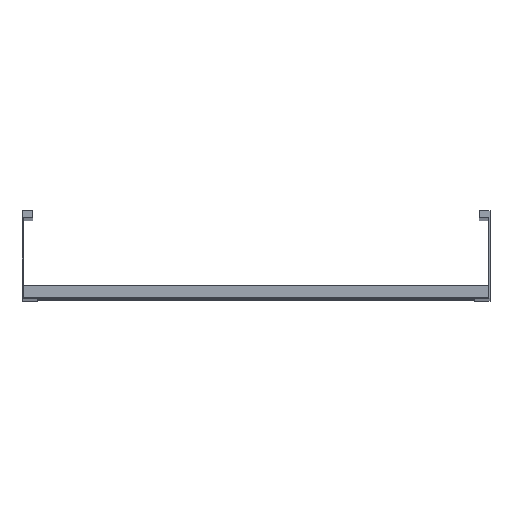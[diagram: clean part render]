
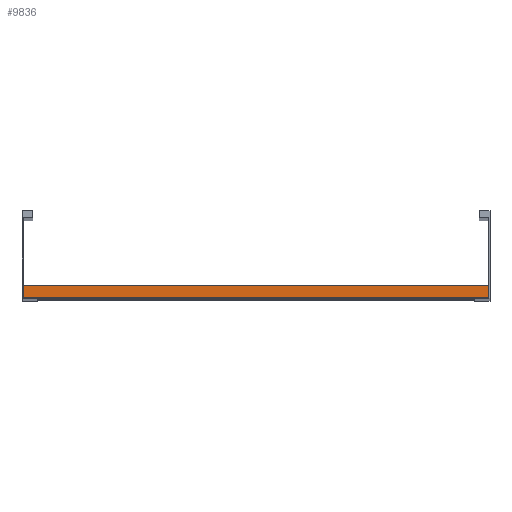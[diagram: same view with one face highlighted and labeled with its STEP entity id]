
A CAD part, top view. The second image highlights one B-rep face of the part: STEP entity #9836.
In plain terms, the highlighted planar face has unit normal (0, 0, 1).
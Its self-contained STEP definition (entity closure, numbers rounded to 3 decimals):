
#252 = CARTESIAN_POINT ( 'NONE',  ( 398., 0., 20.25 ) ) ;
#388 = CARTESIAN_POINT ( 'NONE',  ( 398., 20., 20.25 ) ) ;
#827 = VERTEX_POINT ( 'NONE', #4361 ) ;
#994 = VECTOR ( 'NONE', #1344, 1000. ) ;
#1344 = DIRECTION ( 'NONE',  ( 0., -1., 0. ) ) ;
#1865 = DIRECTION ( 'NONE',  ( -1., 0., 0. ) ) ;
#2303 = DIRECTION ( 'NONE',  ( 0., 0., -1. ) ) ;
#2851 = EDGE_CURVE ( 'NONE', #4086, #827, #9326, .T. ) ;
#3006 = LINE ( 'NONE', #9995, #9721 ) ;
#3504 = CARTESIAN_POINT ( 'NONE',  ( 398., 0., 20.25 ) ) ;
#3692 = LINE ( 'NONE', #6189, #10097 ) ;
#4086 = VERTEX_POINT ( 'NONE', #8723 ) ;
#4361 = CARTESIAN_POINT ( 'NONE',  ( -398., 0., 20.25 ) ) ;
#4966 = VERTEX_POINT ( 'NONE', #252 ) ;
#5033 = FACE_OUTER_BOUND ( 'NONE', #9501, .T. ) ;
#5355 = VERTEX_POINT ( 'NONE', #388 ) ;
#5361 = LINE ( 'NONE', #3504, #10273 ) ;
#6189 = CARTESIAN_POINT ( 'NONE',  ( 398., 20., 20.25 ) ) ;
#6844 = PLANE ( 'NONE',  #10262 ) ;
#7509 = CARTESIAN_POINT ( 'NONE',  ( -398., 20., 20.25 ) ) ;
#7606 = ORIENTED_EDGE ( 'NONE', *, *, #8698, .F. ) ;
#8644 = CARTESIAN_POINT ( 'NONE',  ( 398., 20., 20.25 ) ) ;
#8652 = ORIENTED_EDGE ( 'NONE', *, *, #9179, .F. ) ;
#8698 = EDGE_CURVE ( 'NONE', #5355, #4966, #3692, .T. ) ;
#8723 = CARTESIAN_POINT ( 'NONE',  ( -398., 20., 20.25 ) ) ;
#9013 = DIRECTION ( 'NONE',  ( -1., 0., 0. ) ) ;
#9179 = EDGE_CURVE ( 'NONE', #4966, #827, #5361, .T. ) ;
#9290 = DIRECTION ( 'NONE',  ( 0., 1., 0. ) ) ;
#9326 = LINE ( 'NONE', #7509, #994 ) ;
#9425 = ORIENTED_EDGE ( 'NONE', *, *, #2851, .T. ) ;
#9501 = EDGE_LOOP ( 'NONE', ( #9425, #8652, #7606, #10176 ) ) ;
#9685 = EDGE_CURVE ( 'NONE', #5355, #4086, #3006, .T. ) ;
#9721 = VECTOR ( 'NONE', #9013, 1000. ) ;
#9836 = ADVANCED_FACE ( 'NONE', ( #5033 ), #6844, .F. ) ;
#9852 = DIRECTION ( 'NONE',  ( 0., -1., 0. ) ) ;
#9995 = CARTESIAN_POINT ( 'NONE',  ( 398., 20., 20.25 ) ) ;
#10097 = VECTOR ( 'NONE', #9852, 1000. ) ;
#10176 = ORIENTED_EDGE ( 'NONE', *, *, #9685, .T. ) ;
#10262 = AXIS2_PLACEMENT_3D ( 'NONE', #8644, #2303, #9290 ) ;
#10273 = VECTOR ( 'NONE', #1865, 1000. ) ;
